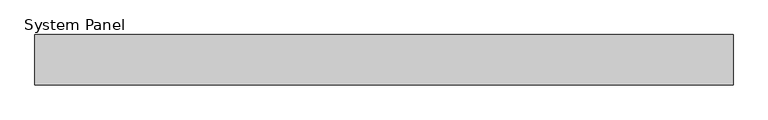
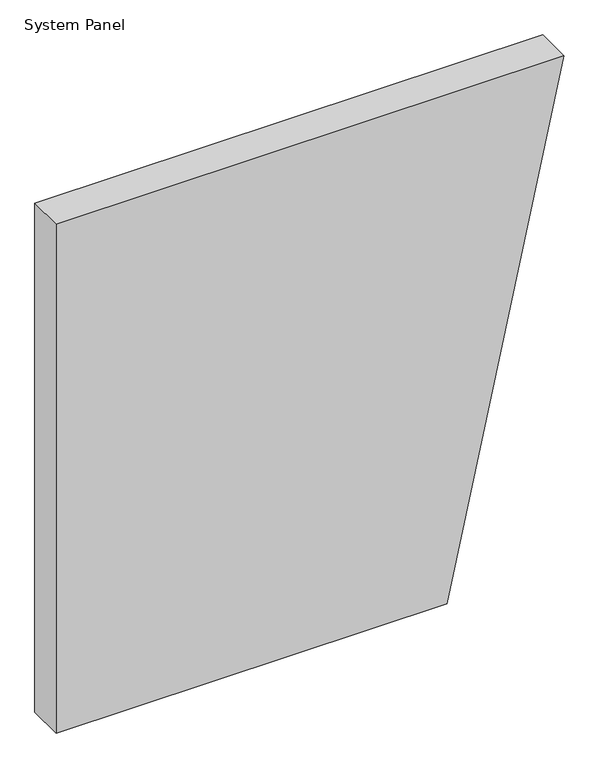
"""IFC4 building model written with IfcOpenShell, lengths in millimetres: plate geometry, System Panel : MetecnoPanel 75mm Horizontal - Plain Astro - PIR."""

from ifc_helpers import new_model, si_unit, frame, origin, place, context, project, spatial, polyline, outline, extrude, source, transform, mapped, element, save


def system_panel_7fdc04a2(model_context):
    return source(origin(), model_context, "Body", "SweptSolid", [
        extrude(outline(polyline([(0.0, -519.5661783), (0.0, 280.4338217), (1100.0, 519.5661783), (1100.0, -519.5661783), (0.0, -519.5661783)])), frame((0.0, -75.0, 0.0), z_axis=(0.0, 1.0, 0.0), x_axis=(0.0, 0.0, 1.0)), (0.0, 0.0, 1.0), 75.0),
    ])


if __name__ == "__main__":
    model = new_model("IFC4")
    model_context = context("Model", 3, world=origin())
    ifc_project = project(units=[si_unit("LENGTHUNIT", "METRE", prefix="MILLI")], contexts=[model_context])
    site = spatial("IfcSite", under=ifc_project)
    building = spatial("IfcBuilding", under=site)
    placement = place(None, origin())
    system_panel_shape = system_panel_7fdc04a2(model_context)
    element("IfcPlate", 1, ObjectType="System Panel : MetecnoPanel 75mm Horizontal - Plain Astro - PIR", at=placement, inside=building, context=model_context, shape_type="MappedRepresentation", body=[
        mapped(system_panel_shape, transform((0.0, 0.0, 0.0), x_axis=(1.0, 0.0, 0.0), y_axis=(0.0, 1.0, 0.0), z_axis=(0.0, 0.0, 1.0))),
    ])
    save(model, "model.ifc")
